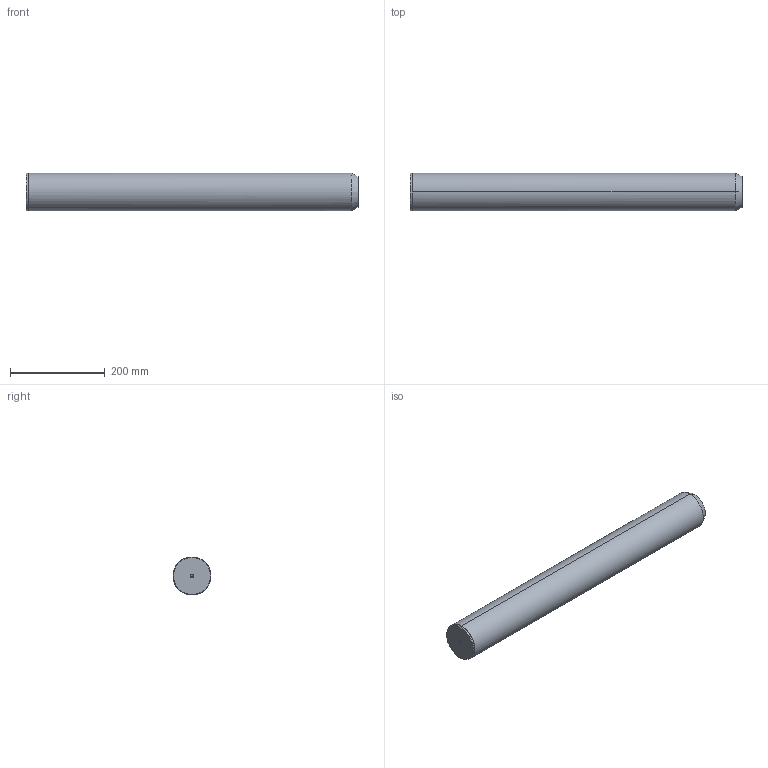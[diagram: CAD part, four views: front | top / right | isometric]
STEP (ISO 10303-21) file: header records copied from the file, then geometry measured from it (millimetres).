
FILE_DESCRIPTION(('CATIA V5 STEP Exchange'),'2;1');
FILE_NAME('C:\Users\Utente\Desktop\IO LAVORO\3D X SITO CF\X SITO\720\720-80x700.stp','2020-12-30T21:17:26+00:00',('none'),('none'),'CATIA Version 5 Release 20 GA (IN-10)','CATIA V5 STEP AP203','none');
FILE_SCHEMA(('CONFIG_CONTROL_DESIGN'));
Length unit declared in the file: millimetre
Products named in the file (1): 720-80x700
Bounding box: 700 x 80 x 80 mm (x, y, z)
Volume: 3505006.1 mm3; surface area: 184958.6 mm2
Topology: 1 solids, 1 shells, 26 faces, 82 edges, 58 vertices
Faces by surface type: cone 10, cylinder 10, plane 4, bspline 2
Entity records: 1094 total; most frequent: CARTESIAN_POINT 387, ORIENTED_EDGE 156, DIRECTION 104, EDGE_CURVE 78, AXIS2_PLACEMENT_3D 61, VERTEX_POINT 58, CIRCLE 36, EDGE_LOOP 30
